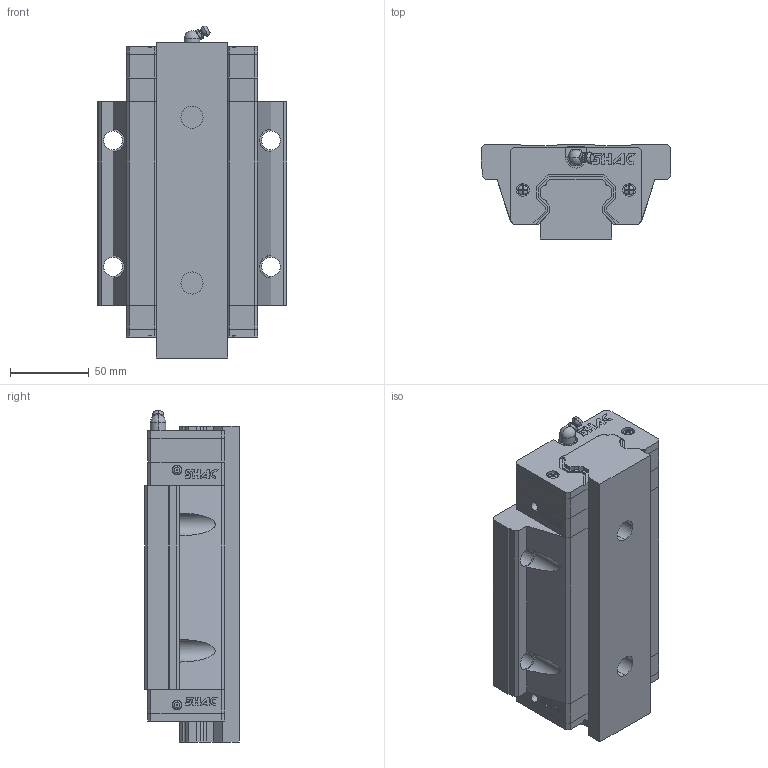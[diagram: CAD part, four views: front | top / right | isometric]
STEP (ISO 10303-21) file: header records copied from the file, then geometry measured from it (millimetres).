
FILE_DESCRIPTION (( 'STEP AP214' ), '1' );
FILE_NAME ('STP_GHW45HA_(E2)自润式_(R)上锁式_刮油片＋防尘条_1_200_200_GHW45HA_GHW45HA.step', '2020-06-27T09:35:42', ( 'IT Division' ), ( 'IT' ), 'SwSTEP 2.0', 'SolidWorks 2016', '' );
FILE_SCHEMA (( 'AUTOMOTIVE_DESIGN' ));
Length unit declared in the file: millimetre
Products named in the file (3): STP_GHW45HA_(E2)自润式_(R)上锁式_刮油片＋防尘条_1_200_200_GHW45HA_GHW45HA_1; STP_GHW45HA_(E2)自润式_(R)上锁式_刮油片＋防尘条_1_200_200_GHW45HA_GHW45HA; STP_GHW45HA_(E2)自润式_(R)上锁式_刮油片＋防尘条_1_200_200_GHW45HA_GHW45HA_2
Assembly tree (2 placements, depth 2):
  STP_GHW45HA_(E2)自润式_(R)上锁式_刮油片＋防尘条_1_200_200_GHW45HA_GHW45HA
    STP_GHW45HA_(E2)自润式_(R)上锁式_刮油片＋防尘条_1_200_200_GHW45HA_GHW45HA_1
    STP_GHW45HA_(E2)自润式_(R)上锁式_刮油片＋防尘条_1_200_200_GHW45HA_GHW45HA_2
Bounding box: 120 x 60 x 210.35 mm (x, y, z)
Volume: 961419.9 mm3; surface area: 149661.6 mm2
Topology: 8 solids, 8 shells, 840 faces, 2267 edges, 1494 vertices
Faces by surface type: plane 628, cylinder 154, torus 25, cone 23, sphere 10
Entity records: 30139 total; most frequent: CARTESIAN_POINT 4788, ORIENTED_EDGE 4526, DIRECTION 4366, EDGE_CURVE 2263, LINE 1770, VECTOR 1770, VERTEX_POINT 1492, AXIS2_PLACEMENT_3D 1298
